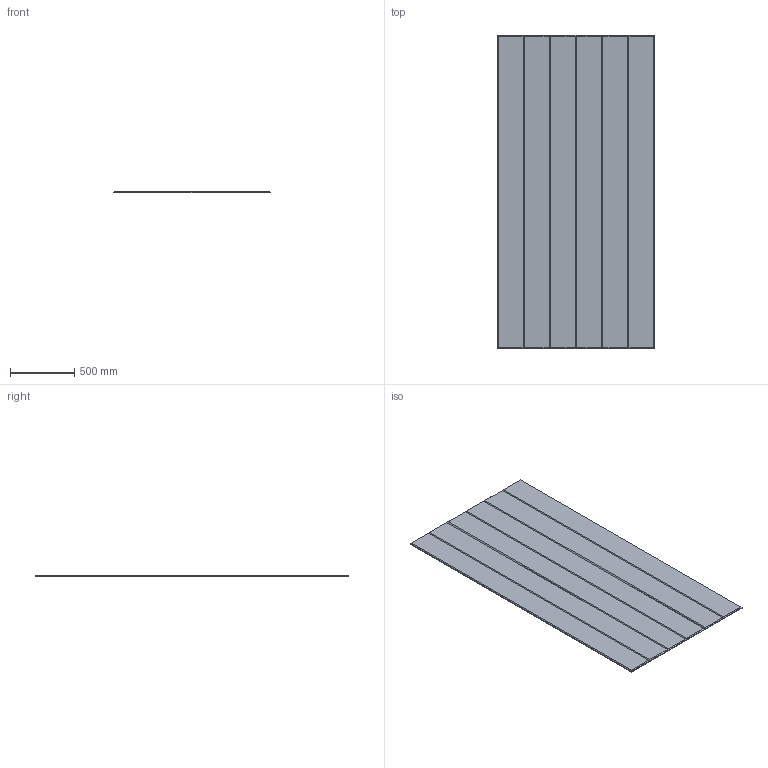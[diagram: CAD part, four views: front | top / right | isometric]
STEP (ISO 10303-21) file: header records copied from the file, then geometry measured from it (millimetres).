
FILE_DESCRIPTION(/* description */ (''),/* implementation_level */ '2;1');
FILE_NAME(/* name */ 'Y:\Design and Engineering\MaterialLogiq\CAD ASSETS\MASTER\PET ENGRAVED\PARAMETRIC\Longitude Dense.stp',/* time_stamp */ '2024-08-26T10:05:23-05:00',/* author */ ('Grant Baker'),/* organization */ (''),/* preprocessor_version */ 'ST-DEVELOPER v19',/* originating_system */ 'Autodesk Inventor 2023',/* authorisation */ '');
FILE_SCHEMA (('AUTOMOTIVE_DESIGN { 1 0 10303 214 3 1 1 }'));
Length unit declared in the file: inch
Products named in the file (1): Longitude Dense
Bounding box: 1219.2 x 2438.4 x 12.7 mm (x, y, z)
Volume: 37118748.3 mm3; surface area: 6075222.2 mm2
Topology: 1 solids, 1 shells, 35 faces, 75 edges, 42 vertices
Faces by surface type: plane 35
Entity records: 942 total; most frequent: CARTESIAN_POINT 153, ORIENTED_EDGE 150, DIRECTION 147, LINE 75, VECTOR 75, EDGE_CURVE 75, VERTEX_POINT 42, AXIS2_PLACEMENT_3D 36
